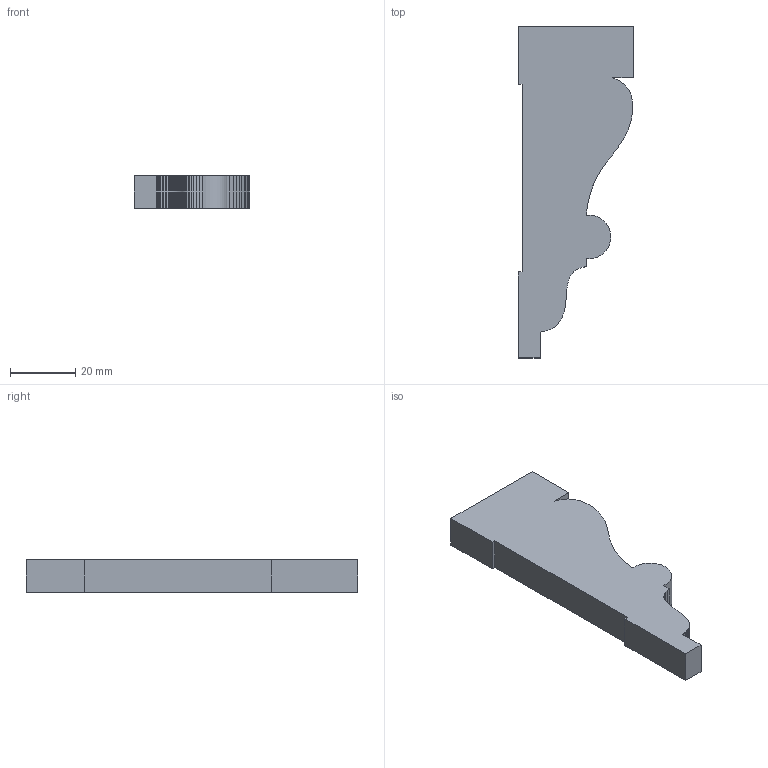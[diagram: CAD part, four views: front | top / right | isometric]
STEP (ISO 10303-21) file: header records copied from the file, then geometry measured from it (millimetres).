
FILE_DESCRIPTION (( 'STEP AP203' ), '1' );
FILE_NAME ('AB602FJ.STEP', '2024-02-22T13:09:23', ( '' ), ( '' ), 'SwSTEP 2.0', 'SolidWorks 2020', '' );
FILE_SCHEMA (( 'CONFIG_CONTROL_DESIGN' ));
Length unit declared in the file: millimetre
Products named in the file (1): AB602FJ
Bounding box: 35.21 x 101.6 x 10 mm (x, y, z)
Volume: 24559.1 mm3; surface area: 7680.4 mm2
Topology: 1 solids, 1 shells, 86 faces, 252 edges, 168 vertices
Faces by surface type: plane 85, cylinder 1
Entity records: 2875 total; most frequent: CARTESIAN_POINT 507, ORIENTED_EDGE 504, DIRECTION 428, EDGE_CURVE 252, VECTOR 250, LINE 250, VERTEX_POINT 168, AXIS2_PLACEMENT_3D 89
